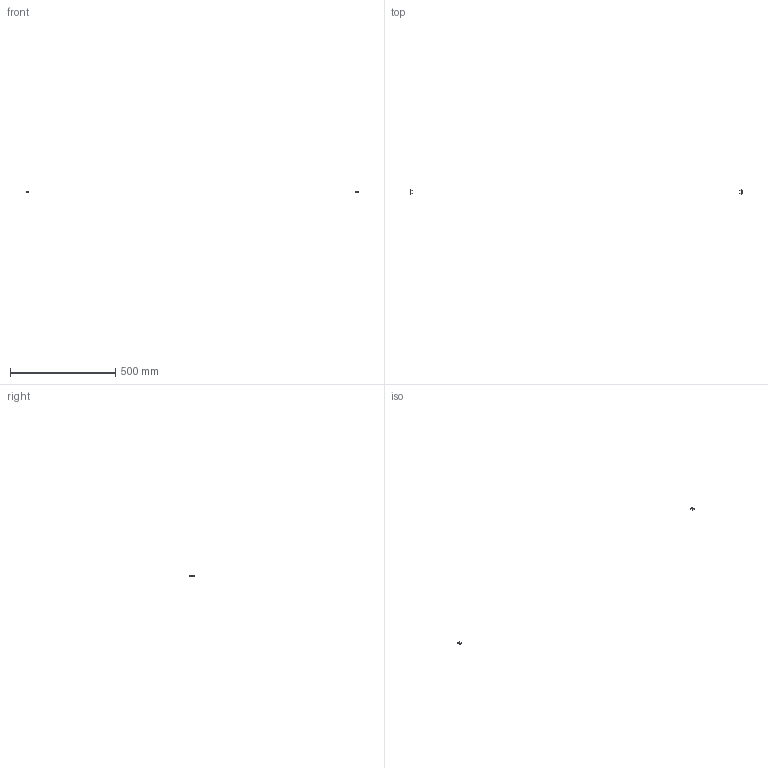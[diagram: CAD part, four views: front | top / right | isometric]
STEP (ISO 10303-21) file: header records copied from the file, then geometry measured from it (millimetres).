
FILE_DESCRIPTION(/* description */ (''),/* implementation_level */ '2;1');
FILE_NAME(/* name */ '4.frame-door#4.8#CB3-10',/* time_stamp */ '2014-12-01T20:13:02+01:00',/* author */ (''),/* organization */ (''),/* preprocessor_version */ 'ST-DEVELOPER v14',/* originating_system */ '',/* authorisation */ '');
FILE_SCHEMA (('AUTOMOTIVE_DESIGN'));
Length unit declared in the file: millimetre
Products named in the file (2): Document; screw DIN912-like, M3x10
Assembly tree (2 placements, depth 2):
  Document
    screw DIN912-like, M3x10  x2
Bounding box: 1580 x 19.52 x 5.48 mm (x, y, z)
Volume: 530 mm3; surface area: 807.6 mm2
Topology: 4 solids, 4 shells, 100 faces, 224 edges, 132 vertices
Faces by surface type: plane 60, bspline 40
Entity records: 4125 total; most frequent: CARTESIAN_POINT 1889, B_SPLINE_CURVE_WITH_KNOTS 378, ORIENTED_EDGE 324, PCURVE 324, DEFINITIONAL_REPRESENTATION 324, SURFACE_CURVE 162, EDGE_CURVE 162, VERTEX_POINT 99
